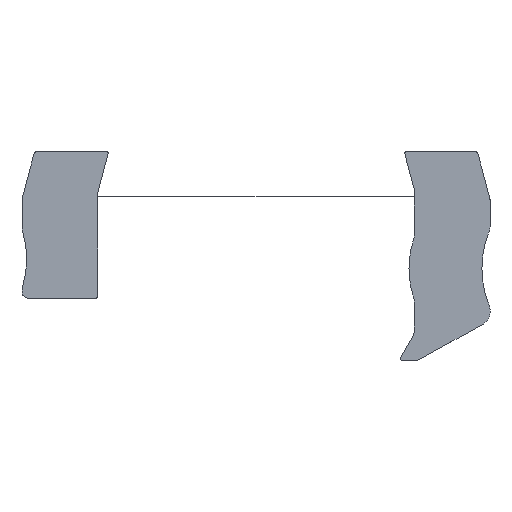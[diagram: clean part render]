
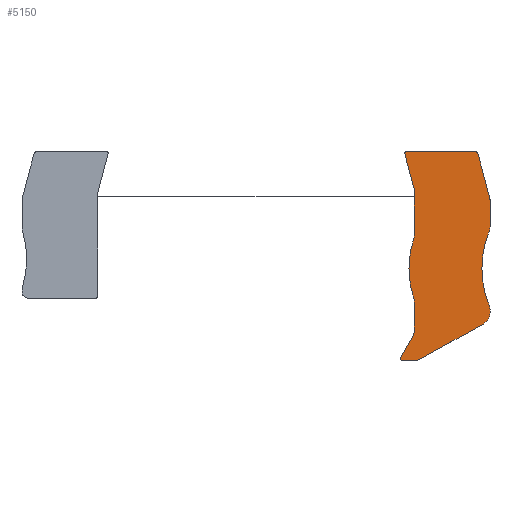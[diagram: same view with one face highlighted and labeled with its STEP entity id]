
A CAD part, top view. The second image highlights one B-rep face of the part: STEP entity #5150.
In plain terms, the highlighted planar face has unit normal (0, 0, 1).
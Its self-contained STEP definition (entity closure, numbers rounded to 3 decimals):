
#60=CARTESIAN_POINT('',(39.98,-27.2,54.07));
#70=DIRECTION('',(0.,0.,1.));
#80=DIRECTION('',(1.,0.,0.));
#90=AXIS2_PLACEMENT_3D('',#60,#70,#80);
#100=CIRCLE('',#90,14.45);
#110=CARTESIAN_POINT('',(26.279,-22.609,54.07));
#120=VERTEX_POINT('',#110);
#130=CARTESIAN_POINT('',(25.53,-27.2,54.07));
#140=VERTEX_POINT('',#130);
#150=EDGE_CURVE('',#120,#140,#100,.T.);
#550=CARTESIAN_POINT('',(26.382,-12.13,54.07));
#560=DIRECTION('',(0.,1.,0.));
#570=VECTOR('',#560,1.);
#580=LINE('',#550,#570);
#590=CARTESIAN_POINT('',(26.382,-21.974,54.07));
#600=VERTEX_POINT('',#590);
#610=CARTESIAN_POINT('',(26.382,-15.357,54.07));
#620=VERTEX_POINT('',#610);
#630=EDGE_CURVE('',#600,#620,#580,.T.);
#1430=CARTESIAN_POINT('',(24.507,-41.4,54.07));
#1440=VERTEX_POINT('',#1430);
#1470=CARTESIAN_POINT('',(11.446,-41.4,54.07));
#1480=DIRECTION('',(-1.,0.,0.));
#1490=VECTOR('',#1480,1.);
#1500=LINE('',#1470,#1490);
#1510=CARTESIAN_POINT('',(26.857,-41.4,54.07));
#1520=VERTEX_POINT('',#1510);
#1530=EDGE_CURVE('',#1520,#1440,#1500,.T.);
#1690=CARTESIAN_POINT('',(24.382,-32.426,54.07));
#1700=DIRECTION('',(0.,0.,1.));
#1710=DIRECTION('',(1.,0.,0.));
#1720=AXIS2_PLACEMENT_3D('',#1690,#1700,#1710);
#1730=CIRCLE('',#1720,2.);
#1740=CARTESIAN_POINT('',(26.382,-32.426,54.07));
#1750=VERTEX_POINT('',#1740);
#1760=CARTESIAN_POINT('',(26.279,-31.791,54.07));
#1770=VERTEX_POINT('',#1760);
#1780=EDGE_CURVE('',#1750,#1770,#1730,.T.);
#2260=CARTESIAN_POINT('',(24.382,-21.974,54.07));
#2270=DIRECTION('',(0.,0.,-1.));
#2280=DIRECTION('',(-1.,0.,0.));
#2290=AXIS2_PLACEMENT_3D('',#2260,#2270,#2280);
#2300=CIRCLE('',#2290,2.);
#2310=EDGE_CURVE('',#600,#120,#2300,.T.);
#2630=CARTESIAN_POINT('',(24.891,-9.528,54.07));
#2640=VERTEX_POINT('',#2630);
#2670=CARTESIAN_POINT('',(25.588,-12.13,54.07));
#2680=DIRECTION('',(-0.259,0.966,0.));
#2690=VECTOR('',#2680,1.);
#2700=LINE('',#2670,#2690);
#2710=CARTESIAN_POINT('',(26.314,-14.839,54.07));
#2720=VERTEX_POINT('',#2710);
#2730=EDGE_CURVE('',#2720,#2640,#2700,.T.);
#2960=CARTESIAN_POINT('',(24.382,-15.357,54.07));
#2970=DIRECTION('',(0.,0.,-1.));
#2980=DIRECTION('',(-1.,0.,0.));
#2990=AXIS2_PLACEMENT_3D('',#2960,#2970,#2980);
#3000=CIRCLE('',#2990,2.);
#3010=EDGE_CURVE('',#2720,#620,#3000,.T.);
#3400=CARTESIAN_POINT('',(24.881,-9.45,54.07));
#3410=VERTEX_POINT('',#3400);
#3440=CARTESIAN_POINT('',(25.181,-9.45,54.07));
#3450=DIRECTION('',(0.,0.,1.));
#3460=DIRECTION('',(1.,0.,0.));
#3470=AXIS2_PLACEMENT_3D('',#3440,#3450,#3460);
#3480=CIRCLE('',#3470,0.3);
#3490=EDGE_CURVE('',#3410,#2640,#3480,.T.);
#3620=CARTESIAN_POINT('',(32.078,-14.816,54.07));
#3630=DIRECTION('',(0.,0.,1.));
#3640=DIRECTION('',(1.,0.,0.));
#3650=AXIS2_PLACEMENT_3D('',#3620,#3630,#3640);
#3660=PLANE('',#3650);
#3670=CARTESIAN_POINT('',(24.507,-41.1,54.07));
#3680=DIRECTION('',(0.,0.,-1.));
#3690=DIRECTION('',(-1.,0.,0.));
#3700=AXIS2_PLACEMENT_3D('',#3670,#3680,#3690);
#3710=CIRCLE('',#3700,0.3);
#3720=CARTESIAN_POINT('',(24.207,-41.1,54.07));
#3730=VERTEX_POINT('',#3720);
#3740=EDGE_CURVE('',#1440,#3730,#3710,.T.);
#3750=ORIENTED_EDGE('',*,*,#3740,.F.);
#3760=CARTESIAN_POINT('',(24.247,-40.95,54.07));
#3770=VERTEX_POINT('',#3760);
#3780=EDGE_CURVE('',#3730,#3770,#3710,.T.);
#3790=ORIENTED_EDGE('',*,*,#3780,.F.);
#3800=CARTESIAN_POINT('',(40.832,-12.13,54.07));
#3810=DIRECTION('',(0.499,0.867,0.));
#3820=VECTOR('',#3810,1.);
#3830=LINE('',#3800,#3820);
#3840=CARTESIAN_POINT('',(26.116,-37.703,54.07));
#3850=VERTEX_POINT('',#3840);
#3860=EDGE_CURVE('',#3770,#3850,#3830,.T.);
#3870=ORIENTED_EDGE('',*,*,#3860,.F.);
#3880=CARTESIAN_POINT('',(24.382,-36.706,54.07));
#3890=DIRECTION('',(0.,0.,1.));
#3900=DIRECTION('',(1.,0.,0.));
#3910=AXIS2_PLACEMENT_3D('',#3880,#3890,#3900);
#3920=CIRCLE('',#3910,2.);
#3930=CARTESIAN_POINT('',(26.382,-36.706,54.07));
#3940=VERTEX_POINT('',#3930);
#3950=EDGE_CURVE('',#3850,#3940,#3920,.T.);
#3960=ORIENTED_EDGE('',*,*,#3950,.F.);
#3970=CARTESIAN_POINT('',(26.382,-12.13,54.07));
#3980=DIRECTION('',(0.,-1.,0.));
#3990=VECTOR('',#3980,1.);
#4000=LINE('',#3970,#3990);
#4010=EDGE_CURVE('',#1750,#3940,#4000,.T.);
#4020=ORIENTED_EDGE('',*,*,#4010,.T.);
#4030=ORIENTED_EDGE('',*,*,#1780,.F.);
#4040=EDGE_CURVE('',#140,#1770,#100,.T.);
#4050=ORIENTED_EDGE('',*,*,#4040,.T.);
#4060=ORIENTED_EDGE('',*,*,#150,.T.);
#4070=ORIENTED_EDGE('',*,*,#2310,.T.);
#4080=ORIENTED_EDGE('',*,*,#630,.F.);
#4090=ORIENTED_EDGE('',*,*,#3010,.T.);
#4100=ORIENTED_EDGE('',*,*,#2730,.F.);
#4110=ORIENTED_EDGE('',*,*,#3490,.T.);
#4120=CARTESIAN_POINT('',(25.181,-9.15,54.07));
#4130=VERTEX_POINT('',#4120);
#4140=EDGE_CURVE('',#4130,#3410,#3480,.T.);
#4150=ORIENTED_EDGE('',*,*,#4140,.T.);
#4160=CARTESIAN_POINT('',(11.446,-9.15,54.07));
#4170=DIRECTION('',(1.,0.,0.));
#4180=VECTOR('',#4170,1.);
#4190=LINE('',#4160,#4180);
#4200=CARTESIAN_POINT('',(35.688,-9.15,54.07));
#4210=VERTEX_POINT('',#4200);
#4220=EDGE_CURVE('',#4130,#4210,#4190,.T.);
#4230=ORIENTED_EDGE('',*,*,#4220,.F.);
#4240=CARTESIAN_POINT('',(35.688,-9.65,54.07));
#4250=DIRECTION('',(0.,0.,1.));
#4260=DIRECTION('',(1.,0.,0.));
#4270=AXIS2_PLACEMENT_3D('',#4240,#4250,#4260);
#4280=CIRCLE('',#4270,0.5);
#4290=CARTESIAN_POINT('',(36.171,-9.521,54.07));
#4300=VERTEX_POINT('',#4290);
#4310=EDGE_CURVE('',#4300,#4210,#4280,.T.);
#4320=ORIENTED_EDGE('',*,*,#4310,.T.);
#4330=CARTESIAN_POINT('',(36.87,-12.13,54.07));
#4340=DIRECTION('',(0.259,-0.966,0.));
#4350=VECTOR('',#4340,1.);
#4360=LINE('',#4330,#4350);
#4370=CARTESIAN_POINT('',(38.015,-16.402,54.07));
#4380=VERTEX_POINT('',#4370);
#4390=EDGE_CURVE('',#4300,#4380,#4360,.T.);
#4400=ORIENTED_EDGE('',*,*,#4390,.F.);
#4410=CARTESIAN_POINT('',(37.532,-16.531,54.07));
#4420=DIRECTION('',(0.,0.,-1.));
#4430=DIRECTION('',(-1.,0.,0.));
#4440=AXIS2_PLACEMENT_3D('',#4410,#4420,#4430);
#4450=CIRCLE('',#4440,0.5);
#4460=CARTESIAN_POINT('',(38.032,-16.531,54.07));
#4470=VERTEX_POINT('',#4460);
#4480=EDGE_CURVE('',#4380,#4470,#4450,.T.);
#4490=ORIENTED_EDGE('',*,*,#4480,.F.);
#4500=CARTESIAN_POINT('',(38.032,-12.13,54.07));
#4510=DIRECTION('',(0.,-1.,0.));
#4520=VECTOR('',#4510,1.);
#4530=LINE('',#4500,#4520);
#4540=CARTESIAN_POINT('',(38.032,-20.796,54.07));
#4550=VERTEX_POINT('',#4540);
#4560=EDGE_CURVE('',#4470,#4550,#4530,.T.);
#4570=ORIENTED_EDGE('',*,*,#4560,.F.);
#4580=CARTESIAN_POINT('',(36.032,-20.796,54.07));
#4590=DIRECTION('',(0.,0.,1.));
#4600=DIRECTION('',(1.,0.,0.));
#4610=AXIS2_PLACEMENT_3D('',#4580,#4590,#4600);
#4620=CIRCLE('',#4610,2.);
#4630=CARTESIAN_POINT('',(37.885,-21.55,54.07));
#4640=VERTEX_POINT('',#4630);
#4650=EDGE_CURVE('',#4640,#4550,#4620,.T.);
#4660=ORIENTED_EDGE('',*,*,#4650,.T.);
#4670=CARTESIAN_POINT('',(51.78,-27.2,54.07));
#4680=DIRECTION('',(0.,0.,1.));
#4690=DIRECTION('',(1.,0.,0.));
#4700=AXIS2_PLACEMENT_3D('',#4670,#4680,#4690);
#4710=CIRCLE('',#4700,15.);
#4720=CARTESIAN_POINT('',(36.78,-27.2,54.07));
#4730=VERTEX_POINT('',#4720);
#4740=EDGE_CURVE('',#4640,#4730,#4710,.T.);
#4750=ORIENTED_EDGE('',*,*,#4740,.F.);
#4760=CARTESIAN_POINT('',(37.885,-32.85,54.07));
#4770=VERTEX_POINT('',#4760);
#4780=EDGE_CURVE('',#4730,#4770,#4710,.T.);
#4790=ORIENTED_EDGE('',*,*,#4780,.F.);
#4800=CARTESIAN_POINT('',(36.032,-33.604,54.07));
#4810=DIRECTION('',(0.,0.,1.));
#4820=DIRECTION('',(1.,0.,0.));
#4830=AXIS2_PLACEMENT_3D('',#4800,#4810,#4820);
#4840=CIRCLE('',#4830,2.);
#4850=CARTESIAN_POINT('',(38.032,-33.604,54.07));
#4860=VERTEX_POINT('',#4850);
#4870=EDGE_CURVE('',#4860,#4770,#4840,.T.);
#4880=ORIENTED_EDGE('',*,*,#4870,.T.);
#4890=CARTESIAN_POINT('',(38.032,-12.13,54.07));
#4900=DIRECTION('',(0.,-1.,0.));
#4910=VECTOR('',#4900,1.);
#4920=LINE('',#4890,#4910);
#4930=CARTESIAN_POINT('',(38.032,-34.022,54.07));
#4940=VERTEX_POINT('',#4930);
#4950=EDGE_CURVE('',#4860,#4940,#4920,.T.);
#4960=ORIENTED_EDGE('',*,*,#4950,.F.);
#4970=CARTESIAN_POINT('',(36.032,-34.022,54.07));
#4980=DIRECTION('',(0.,0.,1.));
#4990=DIRECTION('',(1.,0.,0.));
#5000=AXIS2_PLACEMENT_3D('',#4970,#4980,#4990);
#5010=CIRCLE('',#5000,2.);
#5020=CARTESIAN_POINT('',(37.002,-35.771,54.07));
#5030=VERTEX_POINT('',#5020);
#5040=EDGE_CURVE('',#5030,#4940,#5010,.T.);
#5050=ORIENTED_EDGE('',*,*,#5040,.T.);
#5060=CARTESIAN_POINT('',(11.446,-49.95,54.07));
#5070=DIRECTION('',(-0.874,-0.485,0.));
#5080=VECTOR('',#5070,1.);
#5090=LINE('',#5060,#5080);
#5100=EDGE_CURVE('',#5030,#1520,#5090,.T.);
#5110=ORIENTED_EDGE('',*,*,#5100,.F.);
#5120=ORIENTED_EDGE('',*,*,#1530,.F.);
#5130=EDGE_LOOP('',(#5120,#5110,#5050,#4960,#4880,#4790,#4750,#4660,
#4570,#4490,#4400,#4320,#4230,#4150,#4110,#4100,#4090,#4080,#4070,#4060,
#4050,#4030,#4020,#3960,#3870,#3790,#3750));
#5140=FACE_OUTER_BOUND('',#5130,.T.);
#5150=ADVANCED_FACE('',(#5140),#3660,.T.);
